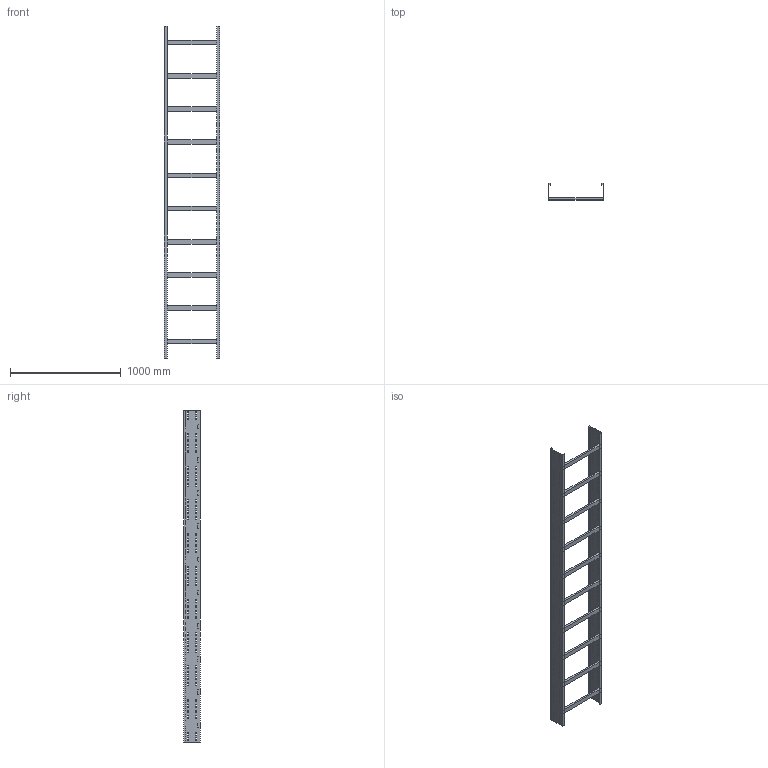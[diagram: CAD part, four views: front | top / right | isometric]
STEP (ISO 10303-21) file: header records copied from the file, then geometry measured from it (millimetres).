
FILE_DESCRIPTION (( 'STEP AP214' ), '1' );
FILE_NAME ('01J3F500.step', '2025-02-21T16:29:19', ( '' ), ( '' ), 'SwSTEP 2.0', 'SolidWorks 2023', '' );
FILE_SCHEMA (( 'AUTOMOTIVE_DESIGN' ));
Length unit declared in the file: millimetre
Products named in the file (3): TRAVERSINO_500; 01J3F500; LONGH.H150
Assembly tree (12 placements, depth 2):
  01J3F500
    LONGH.H150  x2
    TRAVERSINO_500  x10
Bounding box: 500 x 150 x 3000 mm (x, y, z)
Volume: 7197600 mm3; surface area: 2884288 mm2
Topology: 12 solids, 12 shells, 720 faces, 2088 edges, 1392 vertices
Faces by surface type: plane 720
Entity records: 11488 total; most frequent: CARTESIAN_POINT 2011, ORIENTED_EDGE 1992, DIRECTION 1698, EDGE_CURVE 996, VECTOR 996, LINE 996, VERTEX_POINT 664, EDGE_LOOP 496
